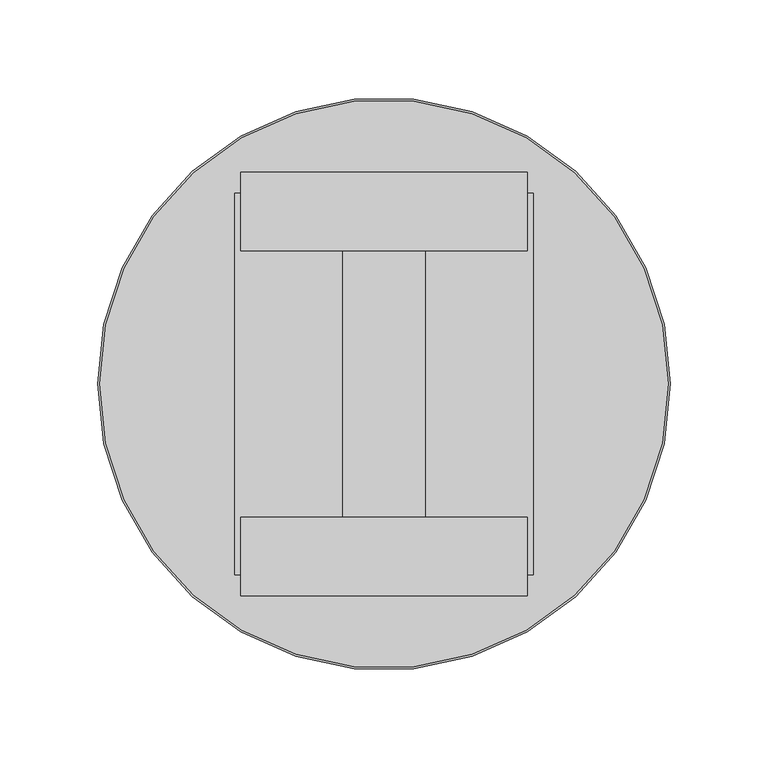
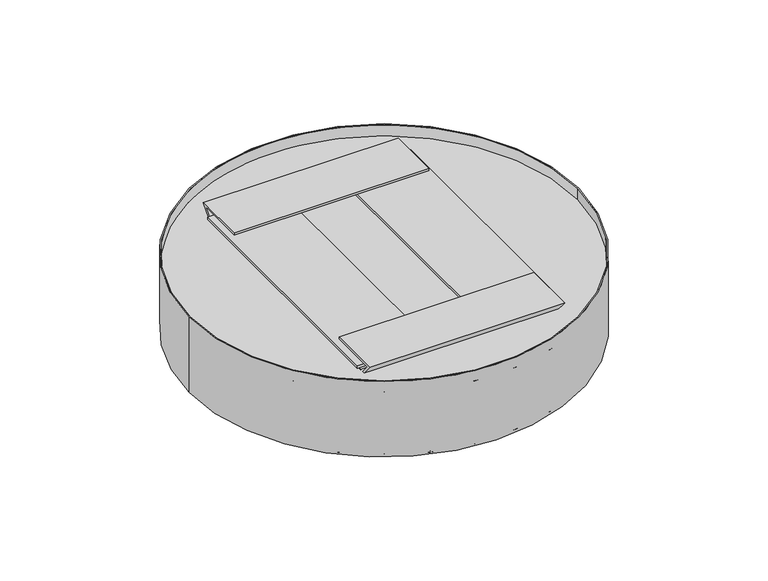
"""IFC4 building model written with IfcOpenShell, lengths in millimetres: proxy geometry, durlum_TOMEO-R-active : durlum_TOMEO-R-ACTIVE 300."""

import ifcopenshell
import ifcopenshell.guid

model = None  # the IFC model being written
_history = None  # IfcOwnerHistory: only IFC2X3 demands one
_inside = {}  # id of a spatial element -> (the spatial element, [elements in it])
_under = {}  # id of a project, library or spatial element -> (it, [spatial elements below it])
_declared = {}  # id of a project -> (the project, [libraries it declares])
_typed = {}  # id of a type object -> (the type object, [elements of that type])
_made_of = {}  # id of a material, layer set ... -> (it, [elements and type objects made of it])


def new_model(schema):
    """Start an empty IFC model of exactly this schema.

    Asked for "IFC4X3", IfcOpenShell would pick the latest addendum, in which some entities
    have other attributes; the version numbers below select the first issue.
    IFC2X3 requires an IfcOwnerHistory on every rooted entity: one is made here for all.
    """
    global model, _history
    if schema == "IFC4X3":
        model = ifcopenshell.file(schema_version=(4, 3, 0, 0))
    else:
        model = ifcopenshell.file(schema=schema)
    _inside.clear()
    _under.clear()
    _declared.clear()
    _typed.clear()
    _made_of.clear()
    _history = None
    if model.schema == "IFC2X3":
        org = make("IfcOrganization", Name="unknown")
        user = make(
            "IfcPersonAndOrganization",
            ThePerson=make("IfcPerson", FamilyName="unknown"),
            TheOrganization=org,
        )
        app = make(
            "IfcApplication",
            ApplicationDeveloper=org,
            Version="unknown",
            ApplicationFullName="unknown",
            ApplicationIdentifier="unknown",
        )
        _history = make(
            "IfcOwnerHistory",
            OwningUser=user,
            OwningApplication=app,
            ChangeAction="ADDED",
            CreationDate=0,
        )
    return model


def make(cls, **values):
    """One entity of the class cls with the attributes given. An attribute that is None is left unset."""
    return model.create_entity(
        cls, **{name: value for name, value in values.items() if value is not None}
    )


def rooted(cls, **values):
    """An entity with a GlobalId (a new one), such as an element, a storey or a relation."""
    return make(cls, GlobalId=ifcopenshell.guid.new(), OwnerHistory=_history, **values)


def si_unit(unit_type, name, prefix=None):
    """IfcSIUnit, for example si_unit("LENGTHUNIT", "METRE", prefix="MILLI")."""
    return make("IfcSIUnit", UnitType=unit_type, Prefix=prefix, Name=name)


def assignment(units):
    """IfcUnitAssignment: the units of a project."""
    return None if units is None else make("IfcUnitAssignment", Units=units)


def point(xyz):
    """IfcCartesianPoint."""
    return None if xyz is None else make("IfcCartesianPoint", Coordinates=xyz)


def direction(xyz):
    """IfcDirection."""
    return None if xyz is None else make("IfcDirection", DirectionRatios=xyz)


def frame(location, z_axis=None, x_axis=None):
    """IfcAxis2Placement3D, a coordinate frame: its origin and axes. An axis left out is left unset."""
    return make(
        "IfcAxis2Placement3D",
        Location=point(location),
        Axis=direction(z_axis),
        RefDirection=direction(x_axis),
    )


def frame_2d(location, x_axis=None):
    """IfcAxis2Placement2D, a coordinate frame in the plane: its origin and x axis."""
    return make(
        "IfcAxis2Placement2D", Location=point(location), RefDirection=direction(x_axis)
    )


def origin():
    """The frame at (0, 0, 0) with its axes left unset."""
    return frame((0.0, 0.0, 0.0))


def origin_with_axes():
    """The frame at (0, 0, 0) with the z axis (0, 0, 1) and the x axis (1, 0, 0) written out."""
    return frame((0.0, 0.0, 0.0), z_axis=(0.0, 0.0, 1.0), x_axis=(1.0, 0.0, 0.0))


def origin_2d():
    """The frame at (0, 0) in the plane with its x axis left unset."""
    return frame_2d((0.0, 0.0))


def place(relative_to, where):
    """IfcLocalPlacement: puts the frame where relative to a parent placement (None: the world)."""
    return make(
        "IfcLocalPlacement", PlacementRelTo=relative_to, RelativePlacement=where
    )


def context(
    kind, dimensions, precision=None, world=None, true_north=None, identifier=None
):
    """IfcGeometricRepresentationContext, for example the 3D "Model" context."""
    return make(
        "IfcGeometricRepresentationContext",
        ContextIdentifier=identifier,
        ContextType=kind,
        CoordinateSpaceDimension=dimensions,
        Precision=precision,
        WorldCoordinateSystem=world,
        TrueNorth=true_north,
    )


def project(units=None, contexts=None):
    """IfcProject with its units and contexts."""
    return rooted(
        "IfcProject",
        Name="project",
        RepresentationContexts=contexts,
        UnitsInContext=assignment(units),
    )


def spatial(cls, under=None, at=None, **own):
    """A site, building, storey or space (cls), placed at a placement, below another one or the project."""
    s = rooted(cls, ObjectPlacement=at, **own)
    if under is not None:
        _under.setdefault(under.id(), (under, []))[1].append(s)
    return s


def polyline(points):
    """IfcPolyline through the points."""
    return make("IfcPolyline", Points=[point(p) for p in points])


def circle_curve(where, radius):
    """IfcCircle in the frame where."""
    return make("IfcCircle", Position=where, Radius=radius)


def trimmed(basis, trim1, trim2, sense, master):
    """IfcTrimmedCurve: the piece of a basis curve between two trims."""
    return make(
        "IfcTrimmedCurve",
        BasisCurve=basis,
        Trim1=trim1,
        Trim2=trim2,
        SenseAgreement=sense,
        MasterRepresentation=master,
    )


def segment(curve, same_sense, transition):
    """IfcCompositeCurveSegment."""
    return make(
        "IfcCompositeCurveSegment",
        Transition=transition,
        SameSense=same_sense,
        ParentCurve=curve,
    )


def composite_curve(segments, self_intersect=None):
    """IfcCompositeCurve: segments joined end to end."""
    return make("IfcCompositeCurve", Segments=segments, SelfIntersect=self_intersect)


def outline(outer, holes=None, kind="AREA"):
    """IfcArbitraryClosedProfileDef: a profile drawn as a closed curve; with holes, ...WithVoids."""
    if holes is None:
        return make("IfcArbitraryClosedProfileDef", ProfileType=kind, OuterCurve=outer)
    return make(
        "IfcArbitraryProfileDefWithVoids",
        ProfileType=kind,
        OuterCurve=outer,
        InnerCurves=holes,
    )


def extrude(swept, where, along, depth):
    """IfcExtrudedAreaSolid: the profile swept, set in the frame where, extruded along a direction by depth."""
    return make(
        "IfcExtrudedAreaSolid",
        SweptArea=swept,
        Position=where,
        ExtrudedDirection=direction(along),
        Depth=depth,
    )


def shape(context_of_items, identifier, shape_type, items):
    """IfcShapeRepresentation: the items that make up one representation, for example the "Body"."""
    return make(
        "IfcShapeRepresentation",
        ContextOfItems=context_of_items,
        RepresentationIdentifier=identifier,
        RepresentationType=shape_type,
        Items=items,
    )


def source(mapping_origin, context_of_items, identifier, shape_type, items):
    """IfcRepresentationMap: a shape defined once, which mapped items show again and again."""
    return make(
        "IfcRepresentationMap",
        MappingOrigin=mapping_origin,
        MappedRepresentation=shape(context_of_items, identifier, shape_type, items),
    )


def transform(
    local_origin,
    x_axis=None,
    y_axis=None,
    z_axis=None,
    scale=None,
    scale2=None,
    scale3=None,
    uniform=True,
):
    """IfcCartesianTransformationOperator3D, or its non-uniform kind. x_axis, y_axis, z_axis: its Axis1, 2, 3."""
    if uniform:
        return make(
            "IfcCartesianTransformationOperator3D",
            Axis1=direction(x_axis),
            Axis2=direction(y_axis),
            LocalOrigin=point(local_origin),
            Scale=scale,
            Axis3=direction(z_axis),
        )
    return make(
        "IfcCartesianTransformationOperator3DnonUniform",
        Axis1=direction(x_axis),
        Axis2=direction(y_axis),
        LocalOrigin=point(local_origin),
        Scale=scale,
        Axis3=direction(z_axis),
        Scale2=scale2,
        Scale3=scale3,
    )


def mapped(mapping_source, mapping_target):
    """IfcMappedItem: shows the shape of a source again, moved by a transform."""
    return make(
        "IfcMappedItem", MappingSource=mapping_source, MappingTarget=mapping_target
    )


def made_of(thing, what):
    """Note that an element or type object is made of a material, layer set ...; save() writes the relation."""
    if what is not None:
        _made_of.setdefault(what.id(), (what, []))[1].append(thing)
    return thing


def element(
    cls,
    number,
    at=None,
    inside=None,
    cuts=None,
    type_object=None,
    material=None,
    context=None,
    identifier="Body",
    shape_type=None,
    held_by="IfcProductDefinitionShape",
    body=None,
    shapes=None,
    **own,
):
    """One element of the class cls, such as IfcWall. Its Tag is "e" and its number.

    at: its placement. inside: the storey or other place that contains it. cuts: it is an
    opening in that element (IfcRelVoidsElement). A single representation is given by context,
    identifier, shape_type and body (its items); several are given by shapes. held_by: the class
    of the entity that holds the representations. save() writes the other relations.
    """
    e = rooted(cls, Tag="e%d" % number, ObjectPlacement=at, **own)
    if body is not None:
        shapes = [shape(context, identifier, shape_type, body)]
    if shapes is not None:
        e.Representation = make(held_by, Representations=shapes)
    if inside is not None:
        _inside.setdefault(inside.id(), (inside, []))[1].append(e)
    if cuts is not None:
        rooted(
            "IfcRelVoidsElement", RelatingBuildingElement=cuts, RelatedOpeningElement=e
        )
    if type_object is not None:
        _typed.setdefault(type_object.id(), (type_object, []))[1].append(e)
    return made_of(e, material)


def aggregate(whole, parts):
    """IfcRelAggregates: a whole, such as a stair, and the parts it consists of."""
    return rooted("IfcRelAggregates", RelatingObject=whole, RelatedObjects=parts)


def save(model, path):
    """Write the relations noted so far, then the file.

    IfcRelAggregates (storeys below a building ...), IfcRelContainedInSpatialStructure (elements
    in a storey), IfcRelDefinesByType, IfcRelAssociatesMaterial and IfcRelDeclares: one each for
    every whole, place, type object, material and project.
    """
    for whole, parts in _under.values():
        aggregate(whole, parts)
    for where, things in _inside.values():
        rooted(
            "IfcRelContainedInSpatialStructure",
            RelatedElements=things,
            RelatingStructure=where,
        )
    for kind, things in _typed.values():
        rooted("IfcRelDefinesByType", RelatedObjects=things, RelatingType=kind)
    for what, things in _made_of.values():
        rooted("IfcRelAssociatesMaterial", RelatedObjects=things, RelatingMaterial=what)
    for by, libraries in _declared.values():
        rooted("IfcRelDeclares", RelatingContext=by, RelatedDefinitions=libraries)
    model.write(path)


def generic_models_a6ffa8e4(model_context):
    return source(origin(), model_context, "Body", "SweptSolid", [
        extrude(outline(polyline([(56.0, 76.3333333), (56.0, 21.3333333), (54.0, 21.3333333), (54.0, 47.8333333), (3.0, 47.8333333), (3.0, 21.3333333), (1.0, 21.3333333), (1.0, 76.3333333), (3.0, 76.3333333), (3.0, 49.8333333), (54.0, 49.8333333), (54.0, 76.3333333), (56.0, 76.3333333)])), frame((0.0, -97.6666667, 0.0), z_axis=(0.0, 1.0, 0.0), x_axis=(0.0, 0.0, 1.0)), (0.0, 0.0, 1.0), 195.3333333),
        extrude(outline(polyline([(108.2973023, 60.0), (98.3726306, 48.0), (97.1040606, 48.0), (90.6509118, 53.6332485), (91.6072389, 54.7895514), (97.6666667, 49.5), (105.1101704, 58.5), (68.2973023, 58.5), (68.2973023, 60.0), (108.2973023, 60.0)])), frame((-73.25, 0.0, 0.0), z_axis=(1.0, 0.0, 0.0), x_axis=(0.0, 1.0, 0.0)), (0.0, 0.0, 1.0), 146.5),
        extrude(outline(polyline([(-108.2973023, 60.0), (-68.2973023, 60.0), (-68.2973023, 58.5), (-105.1101704, 58.5), (-97.6666667, 49.5), (-91.6072389, 54.7895514), (-90.6509118, 53.6332485), (-97.1040606, 48.0), (-98.3726306, 48.0), (-108.2973023, 60.0)])), frame((-73.25, 0.0, 0.0), z_axis=(1.0, 0.0, 0.0), x_axis=(0.0, 1.0, 0.0)), (0.0, 0.0, 1.0), 146.5),
        extrude(outline(polyline([(56.0, -21.3333333), (56.0, -76.3333333), (54.0, -76.3333333), (54.0, -49.8333333), (3.0, -49.8333333), (3.0, -76.3333333), (1.0, -76.3333333), (1.0, -21.3333333), (3.0, -21.3333333), (3.0, -47.8333333), (54.0, -47.8333333), (54.0, -21.3333333), (56.0, -21.3333333)])), frame((0.0, -97.6666667, 0.0), z_axis=(0.0, 1.0, 0.0), x_axis=(0.0, 0.0, 1.0)), (0.0, 0.0, 1.0), 195.3333333),
        extrude(outline(composite_curve([segment(trimmed(circle_curve(origin_2d(), 145.5), [point((-145.5, 0.0))], [point((145.5, 0.0))], False, "CARTESIAN"), True, "CONTINUOUS"), segment(trimmed(circle_curve(origin_2d(), 145.5), [point((145.5, 0.0))], [point((-145.5, 0.0))], False, "CARTESIAN"), True, "CONTINUOUS")], self_intersect=False)), frame((0.0, 0.0, 1.0), z_axis=(0.0, 0.0, 1.0), x_axis=(1.0, 0.0, 0.0)), (0.0, 0.0, 1.0), 50.2547795),
        extrude(outline(composite_curve([segment(trimmed(circle_curve(origin_2d(), 145.5), [point((-145.5, 0.0))], [point((145.5, 0.0))], False, "CARTESIAN"), True, "CONTINUOUS"), segment(trimmed(circle_curve(origin_2d(), 145.5), [point((145.5, 0.0))], [point((-145.5, 0.0))], False, "CARTESIAN"), True, "CONTINUOUS")], self_intersect=False)), frame((0.0, 0.0, 1.0), z_axis=(0.0, 0.0, 1.0), x_axis=(1.0, 0.0, 0.0)), (0.0, 0.0, 1.0), 1.0),
        extrude(outline(composite_curve([segment(trimmed(circle_curve(origin_2d(), 145.5), [point((-145.5, 0.0))], [point((145.5, 0.0))], False, "CARTESIAN"), True, "CONTINUOUS"), segment(trimmed(circle_curve(origin_2d(), 145.5), [point((145.5, 0.0))], [point((-145.5, 0.0))], False, "CARTESIAN"), True, "CONTINUOUS")], self_intersect=False)), origin_with_axes(), (0.0, 0.0, 1.0), 1.0),
        extrude(outline(composite_curve([segment(trimmed(circle_curve(origin_2d(), 146.5), [point((-146.5, 0.0))], [point((146.5, 0.0))], False, "CARTESIAN"), True, "CONTINUOUS"), segment(trimmed(circle_curve(origin_2d(), 146.5), [point((146.5, 0.0))], [point((-146.5, 0.0))], False, "CARTESIAN"), True, "CONTINUOUS")], self_intersect=False), holes=[composite_curve([segment(trimmed(circle_curve(origin_2d(), 145.5), [point((-145.5, 0.0))], [point((145.5, 0.0))], True, "CARTESIAN"), True, "CONTINUOUS"), segment(trimmed(circle_curve(origin_2d(), 145.5), [point((145.5, 0.0))], [point((-145.5, 0.0))], True, "CARTESIAN"), True, "CONTINUOUS")], self_intersect=False)]), origin_with_axes(), (0.0, 0.0, 1.0), 60.0),
    ])


if __name__ == "__main__":
    model = new_model("IFC4")
    model_context = context("Model", 3, world=origin())
    ifc_project = project(units=[si_unit("LENGTHUNIT", "METRE", prefix="MILLI")], contexts=[model_context])
    site = spatial("IfcSite", under=ifc_project)
    building = spatial("IfcBuilding", under=site)
    placement = place(None, origin())
    generic_models_shape = generic_models_a6ffa8e4(model_context)
    element("IfcBuildingElementProxy", 1, Name="durlum_TOMEO-R-active : durlum_TOMEO-R-ACTIVE 300", ObjectType="durlum_TOMEO-R-active : durlum_TOMEO-R-ACTIVE 300", at=placement, inside=building, context=model_context, shape_type="MappedRepresentation", body=[
        mapped(generic_models_shape, transform((0.0, 0.0, 0.0), x_axis=(1.0, 0.0, 0.0), y_axis=(0.0, 1.0, 0.0), z_axis=(0.0, 0.0, 1.0))),
    ])
    save(model, "model.ifc")
